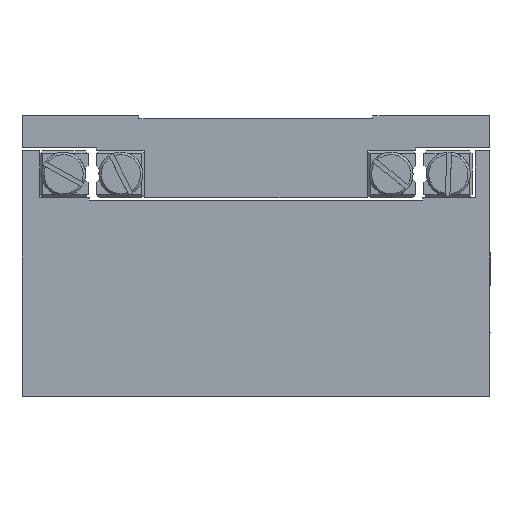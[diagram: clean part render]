
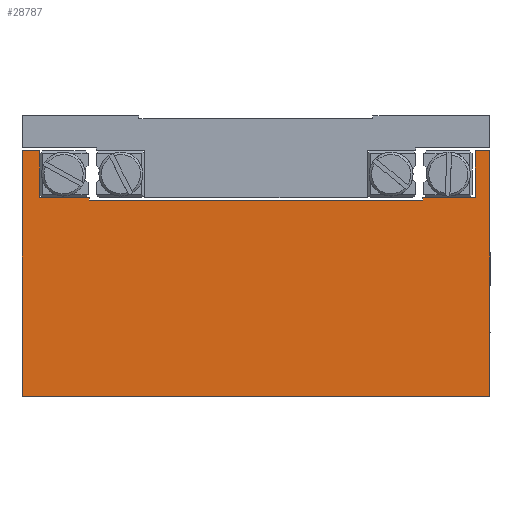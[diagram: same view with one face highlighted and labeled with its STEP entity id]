
A CAD part, front view. The second image highlights one B-rep face of the part: STEP entity #28787.
In plain terms, the highlighted planar face has unit normal (0, -1, 0) as drawn and (0, 0, -1) by its records, which use the part's own axes.
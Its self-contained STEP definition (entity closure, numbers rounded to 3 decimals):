
#4179=FACE_OUTER_BOUND('',#5939,.T.);
#5939=EDGE_LOOP('',(#22771,#22772,#22773,#22774,#22775,#22776,#22777,#22778,
#22779,#22780,#22781,#22782));
#8060=LINE('',#48930,#10091);
#8064=LINE('',#48941,#10095);
#8082=LINE('',#49050,#10113);
#8085=LINE('',#49056,#10116);
#8088=LINE('',#49062,#10119);
#8091=LINE('',#49068,#10122);
#8094=LINE('',#49074,#10125);
#8097=LINE('',#49080,#10128);
#8100=LINE('',#49086,#10131);
#8103=LINE('',#49092,#10134);
#8106=LINE('',#49098,#10137);
#8107=LINE('',#49100,#10138);
#10091=VECTOR('',#36969,10.);
#10095=VECTOR('',#36979,10.);
#10113=VECTOR('',#37103,10.);
#10116=VECTOR('',#37108,10.);
#10119=VECTOR('',#37113,10.);
#10122=VECTOR('',#37118,10.);
#10125=VECTOR('',#37123,10.);
#10128=VECTOR('',#37128,10.);
#10131=VECTOR('',#37133,10.);
#10134=VECTOR('',#37138,10.);
#10137=VECTOR('',#37143,10.);
#10138=VECTOR('',#37146,10.);
#12432=VERTEX_POINT('',#48927);
#12433=VERTEX_POINT('',#48929);
#12437=VERTEX_POINT('',#48939);
#12475=VERTEX_POINT('',#49048);
#12477=VERTEX_POINT('',#49054);
#12479=VERTEX_POINT('',#49060);
#12481=VERTEX_POINT('',#49066);
#12483=VERTEX_POINT('',#49072);
#12485=VERTEX_POINT('',#49078);
#12487=VERTEX_POINT('',#49084);
#12489=VERTEX_POINT('',#49090);
#12491=VERTEX_POINT('',#49096);
#16009=EDGE_CURVE('',#12432,#12433,#8060,.T.);
#16015=EDGE_CURVE('',#12437,#12432,#8064,.T.);
#16066=EDGE_CURVE('',#12475,#12437,#8082,.T.);
#16069=EDGE_CURVE('',#12477,#12475,#8085,.T.);
#16072=EDGE_CURVE('',#12479,#12477,#8088,.T.);
#16075=EDGE_CURVE('',#12481,#12479,#8091,.T.);
#16078=EDGE_CURVE('',#12483,#12481,#8094,.T.);
#16081=EDGE_CURVE('',#12485,#12483,#8097,.T.);
#16084=EDGE_CURVE('',#12487,#12485,#8100,.T.);
#16087=EDGE_CURVE('',#12489,#12487,#8103,.T.);
#16090=EDGE_CURVE('',#12491,#12489,#8106,.T.);
#16091=EDGE_CURVE('',#12433,#12491,#8107,.T.);
#22771=ORIENTED_EDGE('',*,*,#16009,.F.);
#22772=ORIENTED_EDGE('',*,*,#16015,.F.);
#22773=ORIENTED_EDGE('',*,*,#16066,.F.);
#22774=ORIENTED_EDGE('',*,*,#16069,.F.);
#22775=ORIENTED_EDGE('',*,*,#16072,.F.);
#22776=ORIENTED_EDGE('',*,*,#16075,.F.);
#22777=ORIENTED_EDGE('',*,*,#16078,.F.);
#22778=ORIENTED_EDGE('',*,*,#16081,.F.);
#22779=ORIENTED_EDGE('',*,*,#16084,.F.);
#22780=ORIENTED_EDGE('',*,*,#16087,.F.);
#22781=ORIENTED_EDGE('',*,*,#16090,.F.);
#22782=ORIENTED_EDGE('',*,*,#16091,.F.);
#25912=PLANE('',#31202);
#28787=ADVANCED_FACE('',(#4179),#25912,.F.);
#31202=AXIS2_PLACEMENT_3D('',#49102,#37148,#37149);
#36969=DIRECTION('',(1.,0.,0.));
#36979=DIRECTION('',(0.,-1.,0.));
#37103=DIRECTION('',(-1.,0.,0.));
#37108=DIRECTION('',(0.,1.,0.));
#37113=DIRECTION('',(-1.,0.,0.));
#37118=DIRECTION('',(0.,1.,0.));
#37123=DIRECTION('',(-1.,0.,0.));
#37128=DIRECTION('',(0.,-1.,0.));
#37133=DIRECTION('',(-1.,0.,0.));
#37138=DIRECTION('',(0.,-1.,0.));
#37143=DIRECTION('',(-1.,0.,0.));
#37146=DIRECTION('',(0.,1.,0.));
#37148=DIRECTION('center_axis',(0.,0.,1.));
#37149=DIRECTION('ref_axis',(1.,0.,0.));
#48927=CARTESIAN_POINT('',(0.,0.,0.));
#48929=CARTESIAN_POINT('',(80.,0.,0.));
#48930=CARTESIAN_POINT('',(0.,0.,0.));
#48939=CARTESIAN_POINT('',(0.,42.,0.));
#48941=CARTESIAN_POINT('',(0.,42.,0.));
#49048=CARTESIAN_POINT('',(2.5,42.,0.));
#49050=CARTESIAN_POINT('',(2.5,42.,0.));
#49054=CARTESIAN_POINT('',(2.5,34.,0.));
#49056=CARTESIAN_POINT('',(2.5,34.,0.));
#49060=CARTESIAN_POINT('',(11.5,34.,0.));
#49062=CARTESIAN_POINT('',(11.5,34.,0.));
#49066=CARTESIAN_POINT('',(11.5,33.5,0.));
#49068=CARTESIAN_POINT('',(11.5,33.5,0.));
#49072=CARTESIAN_POINT('',(68.5,33.5,0.));
#49074=CARTESIAN_POINT('',(68.5,33.5,0.));
#49078=CARTESIAN_POINT('',(68.5,34.,0.));
#49080=CARTESIAN_POINT('',(68.5,34.,0.));
#49084=CARTESIAN_POINT('',(77.,34.,0.));
#49086=CARTESIAN_POINT('',(77.,34.,0.));
#49090=CARTESIAN_POINT('',(77.,42.,0.));
#49092=CARTESIAN_POINT('',(77.,42.,0.));
#49096=CARTESIAN_POINT('',(80.,42.,0.));
#49098=CARTESIAN_POINT('',(80.,42.,0.));
#49100=CARTESIAN_POINT('',(80.,0.,0.));
#49102=CARTESIAN_POINT('Origin',(39.985,19.698,0.));
